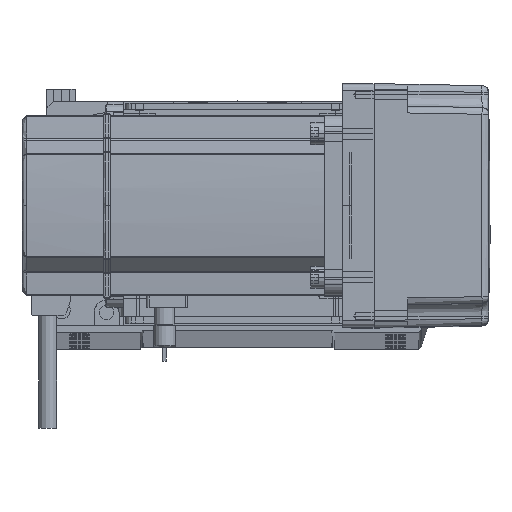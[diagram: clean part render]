
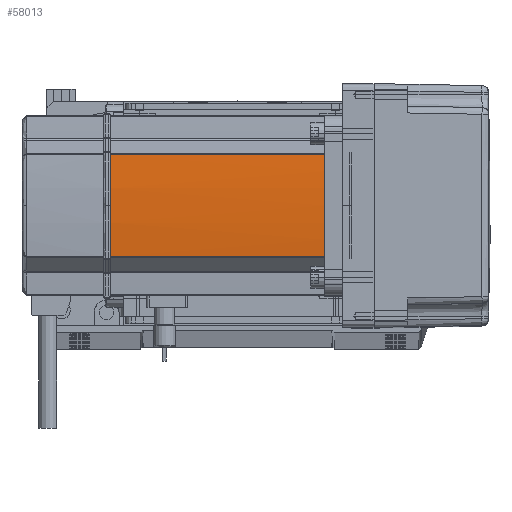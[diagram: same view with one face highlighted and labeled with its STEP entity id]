
A CAD part, top view. The second image highlights one B-rep face of the part: STEP entity #58013.
In plain terms, the highlighted cylindrical face has radius 270 mm (diameter 540 mm), a partial arc.
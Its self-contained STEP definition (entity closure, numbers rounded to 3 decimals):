
#536 = DIRECTION ( 'NONE',  ( 0., 0., -1. ) ) ;
#5871 = AXIS2_PLACEMENT_3D ( 'NONE', #34692, #18471, #28724 ) ;
#7250 = AXIS2_PLACEMENT_3D ( 'NONE', #33206, #536, #17682 ) ;
#9365 = CIRCLE ( 'NONE', #7250, 270. ) ;
#12609 = CARTESIAN_POINT ( 'NONE',  ( -39.042, -22.724, 0. ) ) ;
#13247 = CARTESIAN_POINT ( 'NONE',  ( 230., 0., 134. ) ) ;
#13559 = EDGE_CURVE ( 'NONE', #21536, #52805, #56994, .T. ) ;
#13777 = AXIS2_PLACEMENT_3D ( 'NONE', #13247, #34681, #56736 ) ;
#14222 = CARTESIAN_POINT ( 'NONE',  ( -39.042, -22.724, 134. ) ) ;
#14262 = CARTESIAN_POINT ( 'NONE',  ( -39.042, 22.724, 39. ) ) ;
#14466 = ORIENTED_EDGE ( 'NONE', *, *, #51054, .T. ) ;
#17584 = DIRECTION ( 'NONE',  ( 0., 0., 1. ) ) ;
#17682 = DIRECTION ( 'NONE',  ( 1., 0., 0. ) ) ;
#18471 = DIRECTION ( 'NONE',  ( 0., 0., -1. ) ) ;
#19976 = DIRECTION ( 'NONE',  ( 0., 0., 1. ) ) ;
#21536 = VERTEX_POINT ( 'NONE', #31798 ) ;
#23194 = CYLINDRICAL_SURFACE ( 'NONE', #40616, 270. ) ;
#25220 = EDGE_CURVE ( 'NONE', #38777, #52805, #39205, .T. ) ;
#25717 = EDGE_CURVE ( 'NONE', #65392, #21536, #9365, .T. ) ;
#28724 = DIRECTION ( 'NONE',  ( 1., 0., 0. ) ) ;
#29124 = FACE_OUTER_BOUND ( 'NONE', #62069, .T. ) ;
#31798 = CARTESIAN_POINT ( 'NONE',  ( -39.042, 22.724, 134. ) ) ;
#32754 = CARTESIAN_POINT ( 'NONE',  ( -39.042, 22.724, 0. ) ) ;
#32895 = ORIENTED_EDGE ( 'NONE', *, *, #47176, .T. ) ;
#33206 = CARTESIAN_POINT ( 'NONE',  ( 230., 0., 134. ) ) ;
#34681 = DIRECTION ( 'NONE',  ( 0., 0., -1. ) ) ;
#34692 = CARTESIAN_POINT ( 'NONE',  ( 230., 0., 39. ) ) ;
#36640 = DIRECTION ( 'NONE',  ( 1., 0., 0. ) ) ;
#38777 = VERTEX_POINT ( 'NONE', #65462 ) ;
#39205 = CIRCLE ( 'NONE', #5871, 270. ) ;
#40616 = AXIS2_PLACEMENT_3D ( 'NONE', #52322, #19976, #36640 ) ;
#42592 = VECTOR ( 'NONE', #64865, 1000. ) ;
#45148 = CIRCLE ( 'NONE', #13777, 270. ) ;
#47176 = EDGE_CURVE ( 'NONE', #38777, #67905, #60679, .T. ) ;
#51054 = EDGE_CURVE ( 'NONE', #67905, #65392, #45148, .T. ) ;
#52322 = CARTESIAN_POINT ( 'NONE',  ( 230., 0., 0. ) ) ;
#52805 = VERTEX_POINT ( 'NONE', #14262 ) ;
#56736 = DIRECTION ( 'NONE',  ( 1., 0., 0. ) ) ;
#56994 = LINE ( 'NONE', #32754, #42592 ) ;
#57580 = ORIENTED_EDGE ( 'NONE', *, *, #25717, .T. ) ;
#58013 = ADVANCED_FACE ( 'NONE', ( #29124 ), #23194, .T. ) ;
#60679 = LINE ( 'NONE', #12609, #63220 ) ;
#62069 = EDGE_LOOP ( 'NONE', ( #14466, #57580, #67115, #64531, #32895 ) ) ;
#63220 = VECTOR ( 'NONE', #17584, 1000. ) ;
#64531 = ORIENTED_EDGE ( 'NONE', *, *, #25220, .F. ) ;
#64865 = DIRECTION ( 'NONE',  ( 0., 0., -1. ) ) ;
#65392 = VERTEX_POINT ( 'NONE', #69570 ) ;
#65462 = CARTESIAN_POINT ( 'NONE',  ( -39.042, -22.724, 39. ) ) ;
#67115 = ORIENTED_EDGE ( 'NONE', *, *, #13559, .T. ) ;
#67905 = VERTEX_POINT ( 'NONE', #14222 ) ;
#69570 = CARTESIAN_POINT ( 'NONE',  ( -40., 0., 134. ) ) ;
